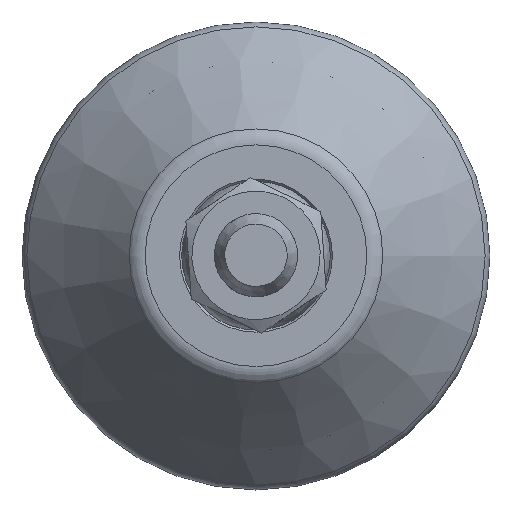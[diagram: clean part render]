
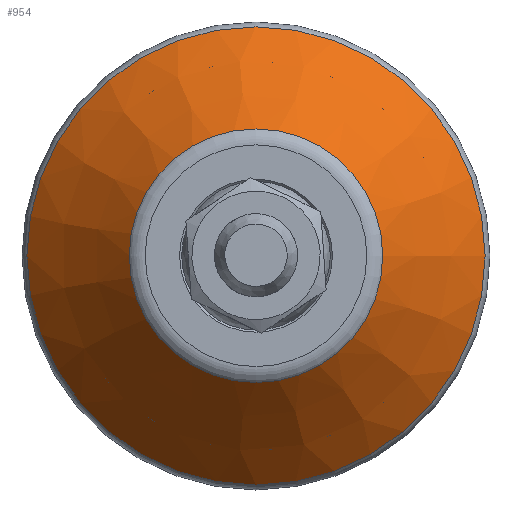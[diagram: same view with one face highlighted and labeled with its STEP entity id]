
A CAD part, top view. The second image highlights one B-rep face of the part: STEP entity #954.
In plain terms, the highlighted conical face has half-angle 40 degrees and reference radius 17.112 mm.
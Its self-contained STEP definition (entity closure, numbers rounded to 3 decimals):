
#954=ADVANCED_FACE('',(#2016,#2018),#2020,.T.);
#2016=FACE_BOUND('',#2017,.T.);
#2017=EDGE_LOOP('',(#2903,#2904));
#2018=FACE_BOUND('',#2019,.T.);
#2019=EDGE_LOOP('',(#2905,#2906));
#2020=CONICAL_SURFACE('',#2021,17.112,0.698);
#2021=AXIS2_PLACEMENT_3D('',#2022,#2023,#2024);
#2022=CARTESIAN_POINT('',(0.,0.,11.422));
#2023=DIRECTION('',(0.,0.,-1.));
#2024=DIRECTION('',(1.,0.,0.));
#2903=ORIENTED_EDGE('',*,*,#3397,.T.);
#2904=ORIENTED_EDGE('',*,*,#3396,.T.);
#2905=ORIENTED_EDGE('',*,*,#3400,.F.);
#2906=ORIENTED_EDGE('',*,*,#3401,.F.);
#3396=EDGE_CURVE('',#3926,#3927,#3928,.T.);
#3397=EDGE_CURVE('',#3927,#3926,#3929,.T.);
#3400=EDGE_CURVE('',#3934,#3935,#3936,.T.);
#3401=EDGE_CURVE('',#3935,#3934,#3937,.T.);
#3926=VERTEX_POINT('',#6361);
#3927=VERTEX_POINT('',#6362);
#3928=CIRCLE('',#6363,22.032);
#3929=CIRCLE('',#6367,22.032);
#3934=VERTEX_POINT('',#6381);
#3935=VERTEX_POINT('',#6382);
#3936=CIRCLE('',#6383,12.191);
#3937=CIRCLE('',#6387,12.191);
#6361=CARTESIAN_POINT('',(-22.032,0.,5.558));
#6362=CARTESIAN_POINT('',(22.032,0.,5.558));
#6363=AXIS2_PLACEMENT_3D('',#6364,#6365,#6366);
#6364=CARTESIAN_POINT('',(0.,0.,5.558));
#6365=DIRECTION('',(0.,0.,1.));
#6366=DIRECTION('',(-1.,0.,0.));
#6367=AXIS2_PLACEMENT_3D('',#6368,#6369,#6370);
#6368=CARTESIAN_POINT('',(0.,0.,5.558));
#6369=DIRECTION('',(0.,0.,1.));
#6370=DIRECTION('',(1.,0.,0.));
#6381=CARTESIAN_POINT('',(-12.191,0.,17.286));
#6382=CARTESIAN_POINT('',(12.191,0.,17.286));
#6383=AXIS2_PLACEMENT_3D('',#6384,#6385,#6386);
#6384=CARTESIAN_POINT('',(0.,0.,17.286));
#6385=DIRECTION('',(0.,0.,1.));
#6386=DIRECTION('',(-1.,0.,0.));
#6387=AXIS2_PLACEMENT_3D('',#6388,#6389,#6390);
#6388=CARTESIAN_POINT('',(0.,0.,17.286));
#6389=DIRECTION('',(0.,0.,1.));
#6390=DIRECTION('',(1.,0.,0.));
